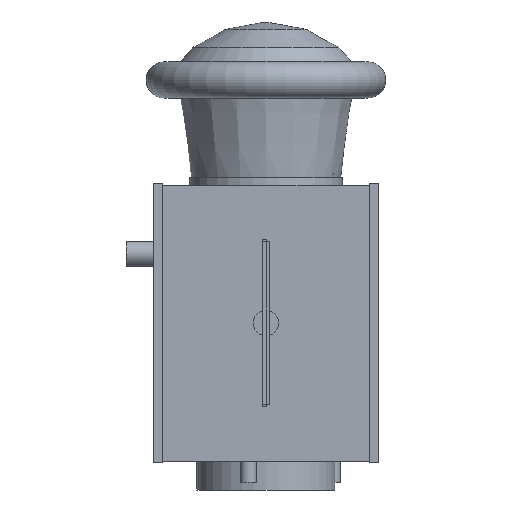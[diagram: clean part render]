
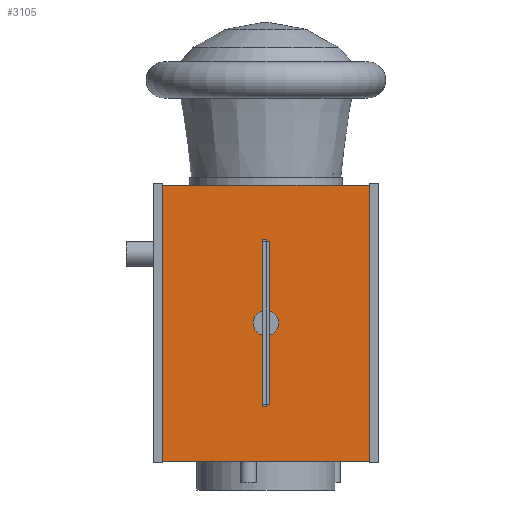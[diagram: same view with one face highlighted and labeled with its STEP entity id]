
A CAD part, left-side view. The second image highlights one B-rep face of the part: STEP entity #3105.
In plain terms, the highlighted planar face has unit normal (-1, 0, 0).
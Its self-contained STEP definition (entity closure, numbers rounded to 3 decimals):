
#3105 = ADVANCED_FACE('',(#3106),#3120,.F.);
#3106 = FACE_BOUND('',#3107,.F.);
#3107 = EDGE_LOOP('',(#3108,#3143,#3171,#3199));
#3108 = ORIENTED_EDGE('',*,*,#3109,.F.);
#3109 = EDGE_CURVE('',#3110,#3112,#3114,.T.);
#3110 = VERTEX_POINT('',#3111);
#3111 = CARTESIAN_POINT('',(-0.296,-0.296,-0.761));
#3112 = VERTEX_POINT('',#3113);
#3113 = CARTESIAN_POINT('',(-0.296,-0.296,0.));
#3114 = SURFACE_CURVE('',#3115,(#3119,#3131),.PCURVE_S1.);
#3115 = LINE('',#3116,#3117);
#3116 = CARTESIAN_POINT('',(-0.296,-0.296,-0.761));
#3117 = VECTOR('',#3118,1.);
#3118 = DIRECTION('',(0.,0.,1.));
#3119 = PCURVE('',#3120,#3125);
#3120 = PLANE('',#3121);
#3121 = AXIS2_PLACEMENT_3D('',#3122,#3123,#3124);
#3122 = CARTESIAN_POINT('',(-0.296,-0.296,-0.761));
#3123 = DIRECTION('',(1.,0.,0.));
#3124 = DIRECTION('',(0.,0.,1.));
#3125 = DEFINITIONAL_REPRESENTATION('',(#3126),#3130);
#3126 = LINE('',#3127,#3128);
#3127 = CARTESIAN_POINT('',(0.,0.));
#3128 = VECTOR('',#3129,1.);
#3129 = DIRECTION('',(1.,0.));
#3130 = ( GEOMETRIC_REPRESENTATION_CONTEXT(2) 
PARAMETRIC_REPRESENTATION_CONTEXT() REPRESENTATION_CONTEXT('2D SPACE',''
  ) );
#3131 = PCURVE('',#3132,#3137);
#3132 = PLANE('',#3133);
#3133 = AXIS2_PLACEMENT_3D('',#3134,#3135,#3136);
#3134 = CARTESIAN_POINT('',(-0.296,-0.296,-0.761));
#3135 = DIRECTION('',(0.,1.,0.));
#3136 = DIRECTION('',(0.,0.,1.));
#3137 = DEFINITIONAL_REPRESENTATION('',(#3138),#3142);
#3138 = LINE('',#3139,#3140);
#3139 = CARTESIAN_POINT('',(0.,0.));
#3140 = VECTOR('',#3141,1.);
#3141 = DIRECTION('',(1.,0.));
#3142 = ( GEOMETRIC_REPRESENTATION_CONTEXT(2) 
PARAMETRIC_REPRESENTATION_CONTEXT() REPRESENTATION_CONTEXT('2D SPACE',''
  ) );
#3143 = ORIENTED_EDGE('',*,*,#3144,.T.);
#3144 = EDGE_CURVE('',#3110,#3145,#3147,.T.);
#3145 = VERTEX_POINT('',#3146);
#3146 = CARTESIAN_POINT('',(-0.296,0.296,-0.761));
#3147 = SURFACE_CURVE('',#3148,(#3152,#3159),.PCURVE_S1.);
#3148 = LINE('',#3149,#3150);
#3149 = CARTESIAN_POINT('',(-0.296,-0.296,-0.761));
#3150 = VECTOR('',#3151,1.);
#3151 = DIRECTION('',(0.,1.,0.));
#3152 = PCURVE('',#3120,#3153);
#3153 = DEFINITIONAL_REPRESENTATION('',(#3154),#3158);
#3154 = LINE('',#3155,#3156);
#3155 = CARTESIAN_POINT('',(0.,0.));
#3156 = VECTOR('',#3157,1.);
#3157 = DIRECTION('',(0.,-1.));
#3158 = ( GEOMETRIC_REPRESENTATION_CONTEXT(2) 
PARAMETRIC_REPRESENTATION_CONTEXT() REPRESENTATION_CONTEXT('2D SPACE',''
  ) );
#3159 = PCURVE('',#3160,#3165);
#3160 = PLANE('',#3161);
#3161 = AXIS2_PLACEMENT_3D('',#3162,#3163,#3164);
#3162 = CARTESIAN_POINT('',(-0.296,-0.296,-0.761));
#3163 = DIRECTION('',(0.,0.,1.));
#3164 = DIRECTION('',(1.,0.,0.));
#3165 = DEFINITIONAL_REPRESENTATION('',(#3166),#3170);
#3166 = LINE('',#3167,#3168);
#3167 = CARTESIAN_POINT('',(0.,0.));
#3168 = VECTOR('',#3169,1.);
#3169 = DIRECTION('',(0.,1.));
#3170 = ( GEOMETRIC_REPRESENTATION_CONTEXT(2) 
PARAMETRIC_REPRESENTATION_CONTEXT() REPRESENTATION_CONTEXT('2D SPACE',''
  ) );
#3171 = ORIENTED_EDGE('',*,*,#3172,.T.);
#3172 = EDGE_CURVE('',#3145,#3173,#3175,.T.);
#3173 = VERTEX_POINT('',#3174);
#3174 = CARTESIAN_POINT('',(-0.296,0.296,0.));
#3175 = SURFACE_CURVE('',#3176,(#3180,#3187),.PCURVE_S1.);
#3176 = LINE('',#3177,#3178);
#3177 = CARTESIAN_POINT('',(-0.296,0.296,-0.761));
#3178 = VECTOR('',#3179,1.);
#3179 = DIRECTION('',(0.,0.,1.));
#3180 = PCURVE('',#3120,#3181);
#3181 = DEFINITIONAL_REPRESENTATION('',(#3182),#3186);
#3182 = LINE('',#3183,#3184);
#3183 = CARTESIAN_POINT('',(0.,-0.591));
#3184 = VECTOR('',#3185,1.);
#3185 = DIRECTION('',(1.,0.));
#3186 = ( GEOMETRIC_REPRESENTATION_CONTEXT(2) 
PARAMETRIC_REPRESENTATION_CONTEXT() REPRESENTATION_CONTEXT('2D SPACE',''
  ) );
#3187 = PCURVE('',#3188,#3193);
#3188 = PLANE('',#3189);
#3189 = AXIS2_PLACEMENT_3D('',#3190,#3191,#3192);
#3190 = CARTESIAN_POINT('',(-0.296,0.296,-0.761));
#3191 = DIRECTION('',(0.,1.,0.));
#3192 = DIRECTION('',(0.,0.,1.));
#3193 = DEFINITIONAL_REPRESENTATION('',(#3194),#3198);
#3194 = LINE('',#3195,#3196);
#3195 = CARTESIAN_POINT('',(0.,0.));
#3196 = VECTOR('',#3197,1.);
#3197 = DIRECTION('',(1.,0.));
#3198 = ( GEOMETRIC_REPRESENTATION_CONTEXT(2) 
PARAMETRIC_REPRESENTATION_CONTEXT() REPRESENTATION_CONTEXT('2D SPACE',''
  ) );
#3199 = ORIENTED_EDGE('',*,*,#3200,.F.);
#3200 = EDGE_CURVE('',#3112,#3173,#3201,.T.);
#3201 = SURFACE_CURVE('',#3202,(#3206,#3213),.PCURVE_S1.);
#3202 = LINE('',#3203,#3204);
#3203 = CARTESIAN_POINT('',(-0.296,-0.296,0.));
#3204 = VECTOR('',#3205,1.);
#3205 = DIRECTION('',(0.,1.,0.));
#3206 = PCURVE('',#3120,#3207);
#3207 = DEFINITIONAL_REPRESENTATION('',(#3208),#3212);
#3208 = LINE('',#3209,#3210);
#3209 = CARTESIAN_POINT('',(0.761,0.));
#3210 = VECTOR('',#3211,1.);
#3211 = DIRECTION('',(0.,-1.));
#3212 = ( GEOMETRIC_REPRESENTATION_CONTEXT(2) 
PARAMETRIC_REPRESENTATION_CONTEXT() REPRESENTATION_CONTEXT('2D SPACE',''
  ) );
#3213 = PCURVE('',#3214,#3219);
#3214 = PLANE('',#3215);
#3215 = AXIS2_PLACEMENT_3D('',#3216,#3217,#3218);
#3216 = CARTESIAN_POINT('',(-0.296,-0.296,0.));
#3217 = DIRECTION('',(0.,0.,1.));
#3218 = DIRECTION('',(1.,0.,0.));
#3219 = DEFINITIONAL_REPRESENTATION('',(#3220),#3224);
#3220 = LINE('',#3221,#3222);
#3221 = CARTESIAN_POINT('',(0.,0.));
#3222 = VECTOR('',#3223,1.);
#3223 = DIRECTION('',(0.,1.));
#3224 = ( GEOMETRIC_REPRESENTATION_CONTEXT(2) 
PARAMETRIC_REPRESENTATION_CONTEXT() REPRESENTATION_CONTEXT('2D SPACE',''
  ) );
